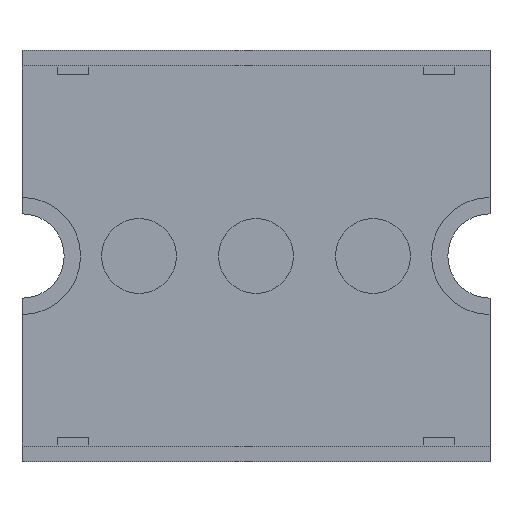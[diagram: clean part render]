
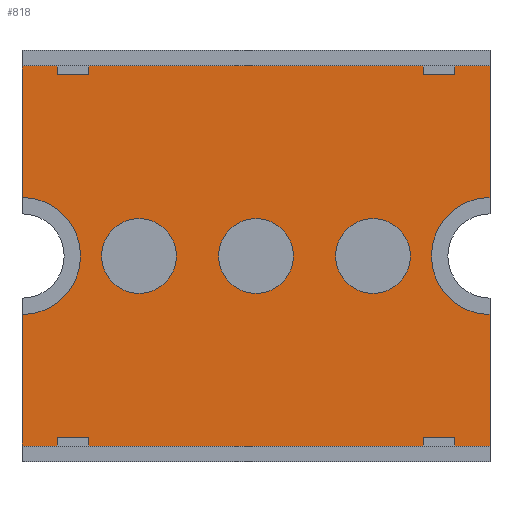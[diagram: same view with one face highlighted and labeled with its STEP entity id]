
A CAD part, front view. The second image highlights one B-rep face of the part: STEP entity #818.
In plain terms, the highlighted planar face has unit normal (0, -1, 0).
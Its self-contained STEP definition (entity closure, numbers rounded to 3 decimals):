
#8 = DIRECTION ( 'NONE',  ( 0., 0., -1. ) ) ;
#13 = VECTOR ( 'NONE', #242, 1000. ) ;
#30 = CARTESIAN_POINT ( 'NONE',  ( 5., 10., -20.3 ) ) ;
#60 = VERTEX_POINT ( 'NONE', #2064 ) ;
#67 = CARTESIAN_POINT ( 'NONE',  ( 5., 10., -6.25 ) ) ;
#110 = VERTEX_POINT ( 'NONE', #2007 ) ;
#116 = VERTEX_POINT ( 'NONE', #1805 ) ;
#117 = FACE_BOUND ( 'NONE', #2262, .T. ) ;
#153 = ORIENTED_EDGE ( 'NONE', *, *, #761, .F. ) ;
#159 = VERTEX_POINT ( 'NONE', #2159 ) ;
#209 = CIRCLE ( 'NONE', #2088, 4. ) ;
#242 = DIRECTION ( 'NONE',  ( 0., 0., 1. ) ) ;
#249 = AXIS2_PLACEMENT_3D ( 'NONE', #300, #1949, #2309 ) ;
#300 = CARTESIAN_POINT ( 'NONE',  ( 0., 10., 0. ) ) ;
#315 = CARTESIAN_POINT ( 'NONE',  ( 17.5, 10., 0. ) ) ;
#335 = CARTESIAN_POINT ( 'NONE',  ( 42.5, 10., 0. ) ) ;
#402 = AXIS2_PLACEMENT_3D ( 'NONE', #496, #824, #1536 ) ;
#414 = EDGE_LOOP ( 'NONE', ( #1964, #1595 ) ) ;
#417 = LINE ( 'NONE', #763, #1850 ) ;
#430 = ORIENTED_EDGE ( 'NONE', *, *, #1175, .T. ) ;
#451 = DIRECTION ( 'NONE',  ( 0., -1., 0. ) ) ;
#474 = CIRCLE ( 'NONE', #1376, 4. ) ;
#480 = ORIENTED_EDGE ( 'NONE', *, *, #2055, .F. ) ;
#491 = DIRECTION ( 'NONE',  ( 0., 0., -1. ) ) ;
#496 = CARTESIAN_POINT ( 'NONE',  ( 55., 10., 0. ) ) ;
#524 = CARTESIAN_POINT ( 'NONE',  ( 55., 10., 20.3 ) ) ;
#532 = CARTESIAN_POINT ( 'NONE',  ( 5., 10., 0. ) ) ;
#546 = DIRECTION ( 'NONE',  ( 0., -1., 0. ) ) ;
#557 = CARTESIAN_POINT ( 'NONE',  ( 17.5, 10., 0. ) ) ;
#619 = ORIENTED_EDGE ( 'NONE', *, *, #629, .F. ) ;
#629 = EDGE_CURVE ( 'NONE', #1800, #681, #417, .T. ) ;
#658 = EDGE_CURVE ( 'NONE', #110, #1626, #1211, .T. ) ;
#681 = VERTEX_POINT ( 'NONE', #67 ) ;
#685 = EDGE_LOOP ( 'NONE', ( #1268, #1622 ) ) ;
#688 = DIRECTION ( 'NONE',  ( 0., 0., -1. ) ) ;
#696 = CARTESIAN_POINT ( 'NONE',  ( 17.5, 10., -4. ) ) ;
#725 = DIRECTION ( 'NONE',  ( 0., 0., -1. ) ) ;
#731 = EDGE_CURVE ( 'NONE', #1766, #159, #1738, .T. ) ;
#742 = CARTESIAN_POINT ( 'NONE',  ( 30., 10., -4. ) ) ;
#761 = EDGE_CURVE ( 'NONE', #934, #1668, #2098, .T. ) ;
#763 = CARTESIAN_POINT ( 'NONE',  ( 5., 10., -20.3 ) ) ;
#776 = EDGE_CURVE ( 'NONE', #116, #934, #1306, .T. ) ;
#818 = ADVANCED_FACE ( 'NONE', ( #1016, #1730, #117, #1372 ), #1913, .T. ) ;
#823 = EDGE_CURVE ( 'NONE', #1298, #1572, #209, .T. ) ;
#824 = DIRECTION ( 'NONE',  ( 0., -1., 0. ) ) ;
#833 = DIRECTION ( 'NONE',  ( -1., 0., 0. ) ) ;
#875 = EDGE_CURVE ( 'NONE', #1766, #116, #1639, .T. ) ;
#917 = CARTESIAN_POINT ( 'NONE',  ( 55., 10., -20.3 ) ) ;
#934 = VERTEX_POINT ( 'NONE', #1261 ) ;
#950 = DIRECTION ( 'NONE',  ( 0., 0., -1. ) ) ;
#996 = EDGE_LOOP ( 'NONE', ( #1699, #619, #430, #153, #1033, #1105, #1055, #480 ) ) ;
#997 = CARTESIAN_POINT ( 'NONE',  ( 17.5, 10., 4. ) ) ;
#1016 = FACE_BOUND ( 'NONE', #414, .T. ) ;
#1033 = ORIENTED_EDGE ( 'NONE', *, *, #776, .F. ) ;
#1055 = ORIENTED_EDGE ( 'NONE', *, *, #731, .T. ) ;
#1105 = ORIENTED_EDGE ( 'NONE', *, *, #875, .F. ) ;
#1130 = CARTESIAN_POINT ( 'NONE',  ( 42.5, 10., 4. ) ) ;
#1139 = DIRECTION ( 'NONE',  ( 0., -1., 0. ) ) ;
#1143 = CARTESIAN_POINT ( 'NONE',  ( 55., 10., 20.3 ) ) ;
#1164 = EDGE_CURVE ( 'NONE', #1626, #110, #474, .T. ) ;
#1170 = DIRECTION ( 'NONE',  ( 0., 0., -1. ) ) ;
#1175 = EDGE_CURVE ( 'NONE', #1800, #1668, #1209, .T. ) ;
#1189 = EDGE_CURVE ( 'NONE', #1572, #1298, #2058, .T. ) ;
#1209 = LINE ( 'NONE', #1930, #1755 ) ;
#1211 = CIRCLE ( 'NONE', #1587, 4. ) ;
#1216 = AXIS2_PLACEMENT_3D ( 'NONE', #2305, #1382, #1369 ) ;
#1261 = CARTESIAN_POINT ( 'NONE',  ( 55., 10., -6.25 ) ) ;
#1266 = AXIS2_PLACEMENT_3D ( 'NONE', #532, #1623, #8 ) ;
#1268 = ORIENTED_EDGE ( 'NONE', *, *, #658, .F. ) ;
#1298 = VERTEX_POINT ( 'NONE', #696 ) ;
#1306 = CIRCLE ( 'NONE', #402, 6.25 ) ;
#1369 = DIRECTION ( 'NONE',  ( 0., 0., -1. ) ) ;
#1372 = FACE_OUTER_BOUND ( 'NONE', #996, .T. ) ;
#1376 = AXIS2_PLACEMENT_3D ( 'NONE', #1714, #2254, #491 ) ;
#1381 = DIRECTION ( 'NONE',  ( 1., 0., 0. ) ) ;
#1382 = DIRECTION ( 'NONE',  ( 0., -1., 0. ) ) ;
#1415 = VECTOR ( 'NONE', #1716, 1000. ) ;
#1449 = VECTOR ( 'NONE', #688, 1000. ) ;
#1524 = AXIS2_PLACEMENT_3D ( 'NONE', #315, #451, #1170 ) ;
#1536 = DIRECTION ( 'NONE',  ( 0., 0., -1. ) ) ;
#1572 = VERTEX_POINT ( 'NONE', #997 ) ;
#1579 = CARTESIAN_POINT ( 'NONE',  ( 55., 10., 20.3 ) ) ;
#1587 = AXIS2_PLACEMENT_3D ( 'NONE', #1862, #1139, #950 ) ;
#1589 = ORIENTED_EDGE ( 'NONE', *, *, #1189, .F. ) ;
#1595 = ORIENTED_EDGE ( 'NONE', *, *, #2240, .F. ) ;
#1603 = AXIS2_PLACEMENT_3D ( 'NONE', #335, #546, #1618 ) ;
#1604 = DIRECTION ( 'NONE',  ( 0., -1., 0. ) ) ;
#1605 = EDGE_CURVE ( 'NONE', #681, #1967, #2282, .T. ) ;
#1607 = VECTOR ( 'NONE', #833, 1000. ) ;
#1618 = DIRECTION ( 'NONE',  ( 0., 0., -1. ) ) ;
#1622 = ORIENTED_EDGE ( 'NONE', *, *, #1164, .F. ) ;
#1623 = DIRECTION ( 'NONE',  ( 0., -1., 0. ) ) ;
#1626 = VERTEX_POINT ( 'NONE', #742 ) ;
#1639 = LINE ( 'NONE', #524, #1449 ) ;
#1668 = VERTEX_POINT ( 'NONE', #917 ) ;
#1699 = ORIENTED_EDGE ( 'NONE', *, *, #1605, .F. ) ;
#1714 = CARTESIAN_POINT ( 'NONE',  ( 30., 10., 0. ) ) ;
#1716 = DIRECTION ( 'NONE',  ( 0., 0., -1. ) ) ;
#1727 = LINE ( 'NONE', #30, #13 ) ;
#1730 = FACE_BOUND ( 'NONE', #685, .T. ) ;
#1738 = LINE ( 'NONE', #1902, #1607 ) ;
#1755 = VECTOR ( 'NONE', #1381, 1000. ) ;
#1766 = VERTEX_POINT ( 'NONE', #1143 ) ;
#1800 = VERTEX_POINT ( 'NONE', #2034 ) ;
#1805 = CARTESIAN_POINT ( 'NONE',  ( 55., 10., 6.25 ) ) ;
#1850 = VECTOR ( 'NONE', #2209, 1000. ) ;
#1862 = CARTESIAN_POINT ( 'NONE',  ( 30., 10., 0. ) ) ;
#1872 = VERTEX_POINT ( 'NONE', #1130 ) ;
#1902 = CARTESIAN_POINT ( 'NONE',  ( 50., 10., 20.3 ) ) ;
#1913 = PLANE ( 'NONE',  #249 ) ;
#1926 = CARTESIAN_POINT ( 'NONE',  ( 5., 10., 6.25 ) ) ;
#1930 = CARTESIAN_POINT ( 'NONE',  ( -50., 10., -20.3 ) ) ;
#1949 = DIRECTION ( 'NONE',  ( 0., -1., 0. ) ) ;
#1964 = ORIENTED_EDGE ( 'NONE', *, *, #1993, .F. ) ;
#1967 = VERTEX_POINT ( 'NONE', #1926 ) ;
#1971 = CIRCLE ( 'NONE', #1216, 4. ) ;
#1993 = EDGE_CURVE ( 'NONE', #1872, #60, #2318, .T. ) ;
#2007 = CARTESIAN_POINT ( 'NONE',  ( 30., 10., 4. ) ) ;
#2034 = CARTESIAN_POINT ( 'NONE',  ( 5., 10., -20.3 ) ) ;
#2055 = EDGE_CURVE ( 'NONE', #1967, #159, #1727, .T. ) ;
#2058 = CIRCLE ( 'NONE', #1524, 4. ) ;
#2064 = CARTESIAN_POINT ( 'NONE',  ( 42.5, 10., -4. ) ) ;
#2088 = AXIS2_PLACEMENT_3D ( 'NONE', #557, #1604, #725 ) ;
#2098 = LINE ( 'NONE', #1579, #1415 ) ;
#2159 = CARTESIAN_POINT ( 'NONE',  ( 5., 10., 20.3 ) ) ;
#2192 = ORIENTED_EDGE ( 'NONE', *, *, #823, .F. ) ;
#2209 = DIRECTION ( 'NONE',  ( 0., 0., 1. ) ) ;
#2240 = EDGE_CURVE ( 'NONE', #60, #1872, #1971, .T. ) ;
#2254 = DIRECTION ( 'NONE',  ( 0., -1., 0. ) ) ;
#2262 = EDGE_LOOP ( 'NONE', ( #1589, #2192 ) ) ;
#2282 = CIRCLE ( 'NONE', #1266, 6.25 ) ;
#2305 = CARTESIAN_POINT ( 'NONE',  ( 42.5, 10., 0. ) ) ;
#2309 = DIRECTION ( 'NONE',  ( 0., 0., -1. ) ) ;
#2318 = CIRCLE ( 'NONE', #1603, 4. ) ;
